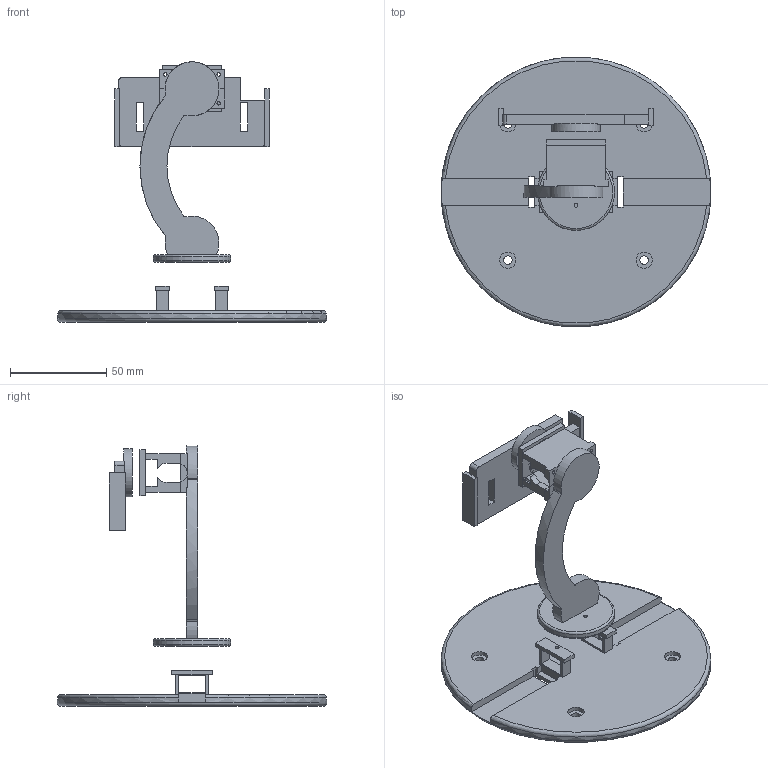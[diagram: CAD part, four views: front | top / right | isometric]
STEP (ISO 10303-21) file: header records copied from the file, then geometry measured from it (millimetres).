
FILE_DESCRIPTION(('Open CASCADE Model'),'2;1');
FILE_NAME('Open CASCADE Shape Model','2026-08-26T11:57:32',('Author'),( 'Open CASCADE'),'Open CASCADE STEP processor 7.8','Open CASCADE 7.8' ,'Unknown');
FILE_SCHEMA(('AUTOMOTIVE_DESIGN { 1 0 10303 214 1 1 1 1 }'));
Length unit declared in the file: millimetre
Products named in the file (5): C270_PanTilt_Printable_Assembly; PanServo_StabilityBase; CurvedArm_SG90_TiltHolder; SG90_RetainingCap; Logitech_C270_ClipCradle
Assembly tree (4 placements, depth 2):
  C270_PanTilt_Printable_Assembly
    PanServo_StabilityBase
    CurvedArm_SG90_TiltHolder
    SG90_RetainingCap
    Logitech_C270_ClipCradle
Bounding box: 140 x 140 x 134.98 mm (x, y, z)
Volume: 124911.2 mm3; surface area: 56982.5 mm2
Topology: 4 solids, 4 shells, 198 faces, 547 edges, 362 vertices
Faces by surface type: plane 143, cylinder 46, torus 5, bspline 4
Full cylindrical faces by diameter (mm): 1.8 x4, 1.9 x2, 2 x8, 2.4 x4, 3.2 x2, 4.4 x4, 8.4 x4, 21 x1, 25 x1, 40 x1, 140 x1
Entity records: 13880 total; most frequent: CARTESIAN_POINT 3295, DIRECTION 1763, ORIENTED_EDGE 1094, PCURVE 1094, DEFINITIONAL_REPRESENTATION 1094, LINE 990, VECTOR 990, EDGE_CURVE 547
